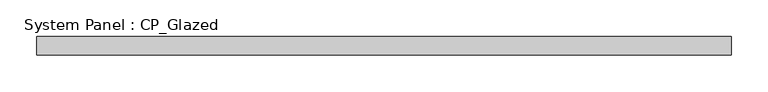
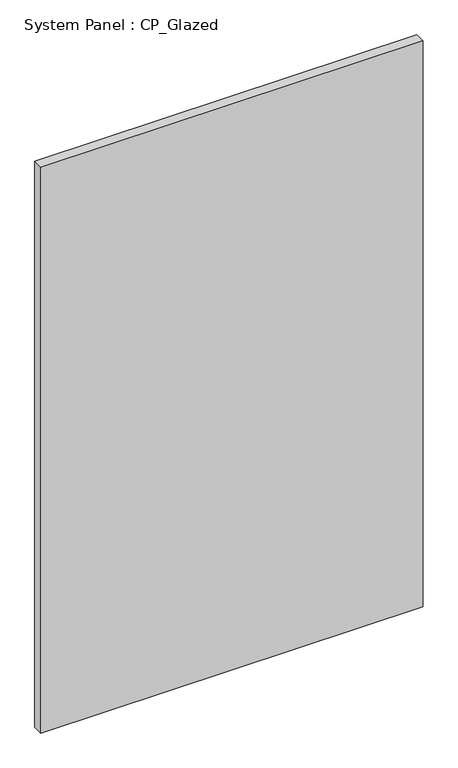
"""IFC4 building model written with IfcOpenShell, lengths in millimetres: plate geometry, System Panel : CP_Glazed."""

from ifc_helpers import new_model, si_unit, origin, origin_with_axes, place, context, project, spatial, polyline, outline, extrude, source, transform, mapped, element, save


def system_panel_cp_glazed_718a5963(model_context):
    return source(origin(), model_context, "Body", "SweptSolid", [
        extrude(outline(polyline([(472.818499, -44.45), (-472.818499, -44.45), (-472.818499, -19.05), (472.818499, -19.05), (472.818499, -44.45)])), origin_with_axes(), (0.0, 0.0, 1.0), 1479.55),
    ])


if __name__ == "__main__":
    model = new_model("IFC4")
    model_context = context("Model", 3, world=origin())
    ifc_project = project(units=[si_unit("LENGTHUNIT", "METRE", prefix="MILLI")], contexts=[model_context])
    site = spatial("IfcSite", under=ifc_project)
    building = spatial("IfcBuilding", under=site)
    placement = place(None, origin())
    system_panel_cp_glazed_shape = system_panel_cp_glazed_718a5963(model_context)
    element("IfcPlate", 1, ObjectType="System Panel : CP_Glazed", at=placement, inside=building, context=model_context, shape_type="MappedRepresentation", body=[
        mapped(system_panel_cp_glazed_shape, transform((0.0, 0.0, 0.0), x_axis=(1.0, 0.0, 0.0), y_axis=(0.0, 1.0, 0.0), z_axis=(0.0, 0.0, 1.0))),
    ])
    save(model, "model.ifc")
